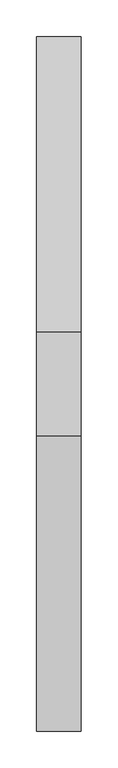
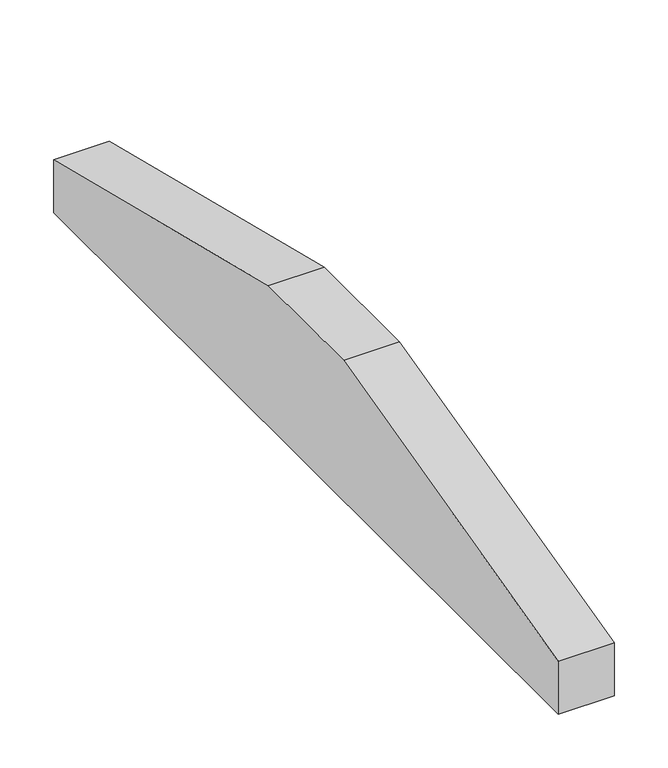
"""IFC4 building model written with IfcOpenShell, lengths in millimetres: proxy geometry, Modelos genéricos 168 : Modelos genéricos 144."""

from ifc_helpers import new_model, si_unit, frame, origin, place, context, project, spatial, polyline, outline, extrude, source, transform, mapped, element, save


def generic_models_2aba8acb(model_context):
    return source(origin(), model_context, "Body", "SweptSolid", [
        extrude(outline(polyline([(2018.6238165, 4209.7515316), (2418.6238165, 4110.0203305), (2418.6238165, 4049.7515316), (1478.6238165, 4049.7515316), (1478.6238165, 4110.0203305), (1878.6238165, 4209.7515316), (2018.6238165, 4209.7515316)])), frame((62513.4472467, 0.0, 0.0), z_axis=(1.0, 0.0, 0.0), x_axis=(0.0, 1.0, 0.0)), (0.0, 0.0, 1.0), 60.0),
    ])


if __name__ == "__main__":
    model = new_model("IFC4")
    model_context = context("Model", 3, world=origin())
    ifc_project = project(units=[si_unit("LENGTHUNIT", "METRE", prefix="MILLI")], contexts=[model_context])
    site = spatial("IfcSite", under=ifc_project)
    building = spatial("IfcBuilding", under=site)
    placement = place(None, origin())
    generic_models_shape = generic_models_2aba8acb(model_context)
    element("IfcBuildingElementProxy", 1, Name="Modelos genéricos 168 : Modelos genéricos 144", ObjectType="Modelos genéricos 168 : Modelos genéricos 144", at=placement, inside=building, context=model_context, shape_type="MappedRepresentation", body=[
        mapped(generic_models_shape, transform((0.0, 0.0, 0.0), x_axis=(1.0, 0.0, 0.0), y_axis=(0.0, 1.0, 0.0), z_axis=(0.0, 0.0, 1.0))),
    ])
    save(model, "model.ifc")
